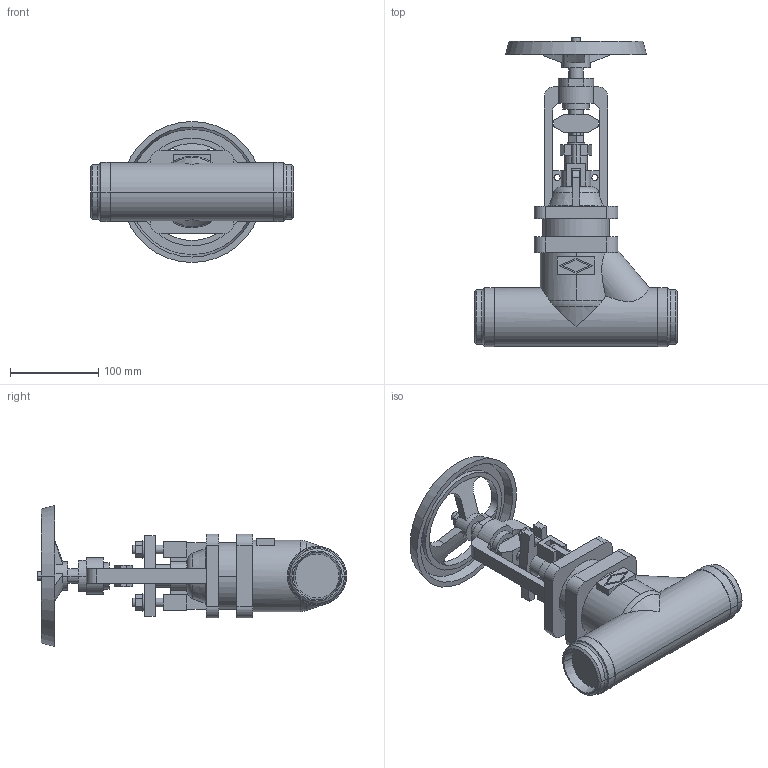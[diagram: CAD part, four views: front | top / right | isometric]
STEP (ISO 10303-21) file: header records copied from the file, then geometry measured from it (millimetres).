
FILE_DESCRIPTION(('OneSpaceDesigner STEP Export'),'2;1');
FILE_NAME('c000004313.stp','2010-05-06T 9:27:01',(''),(''),'OneSpace Designer STEP processor for AP214 (Solid Model)','OneSpace Modeling 15.50B 03-Nov-2007 (C) CoCreate Software GmbH','');
FILE_SCHEMA(('AUTOMOTIVE_DESIGN { 1 0 10303 214 1 1 1 1 }'));
Length unit declared in the file: millimetre
Products named in the file (1): 1
Bounding box: 230 x 350.9 x 160 mm (x, y, z)
Volume: 1799617.1 mm3; surface area: 200660.6 mm2
Topology: 1 solids, 1 shells, 282 faces, 735 edges, 479 vertices
Faces by surface type: plane 146, cylinder 86, cone 36, torus 14
Entity records: 11159 total; most frequent: CARTESIAN_POINT 2326, ORIENTED_EDGE 1470, DIRECTION 1228, EDGE_CURVE 735, VERTEX_POINT 479, VECTOR 414, LINE 414, AXIS2_PLACEMENT_3D 407
